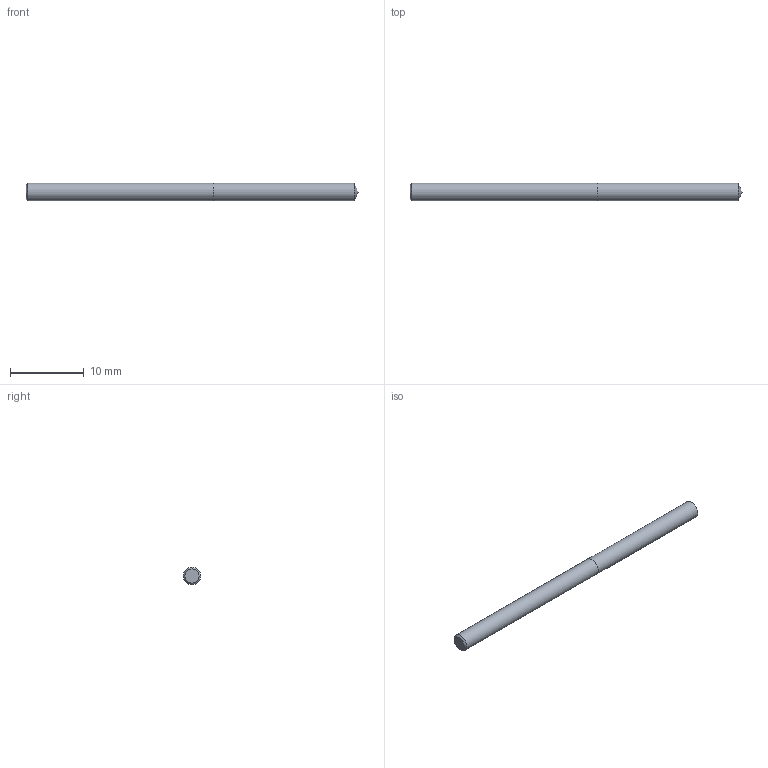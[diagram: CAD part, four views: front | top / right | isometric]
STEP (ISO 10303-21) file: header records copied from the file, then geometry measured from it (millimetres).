
FILE_DESCRIPTION (( 'STEP AP214' ), '1' );
FILE_NAME ('03-2384.STEP', '2022-06-03T07:02:44', ( 'USER' ), ( '' ), 'SwSTEP 2.0', 'SolidWorks 2018', '' );
FILE_SCHEMA (( 'AUTOMOTIVE_DESIGN' ));
Length unit declared in the file: inch
Products named in the file (1): 03-2384
Bounding box: 44.94 x 2.37 x 2.37 mm (x, y, z)
Volume: 197.4 mm3; surface area: 348.6 mm2
Topology: 2 solids, 2 shells, 7 faces, 11 edges, 7 vertices
Faces by surface type: plane 3, cylinder 2, cone 2
Full cylindrical faces by diameter (mm): 2.375 x2
Entity records: 214 total; most frequent: DIRECTION 26, CARTESIAN_POINT 18, AXIS2_PLACEMENT_3D 13, EDGE_LOOP 10, ORIENTED_EDGE 10, FACE_OUTER_BOUND 9, LENGTH_MEASURE_WITH_UNIT 7, DIMENSIONAL_EXPONENTS 7
